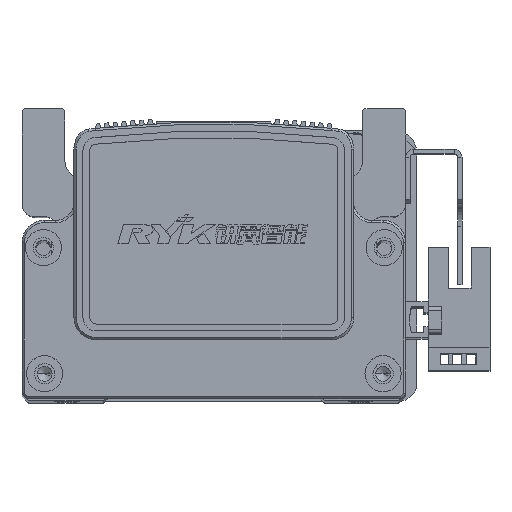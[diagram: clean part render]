
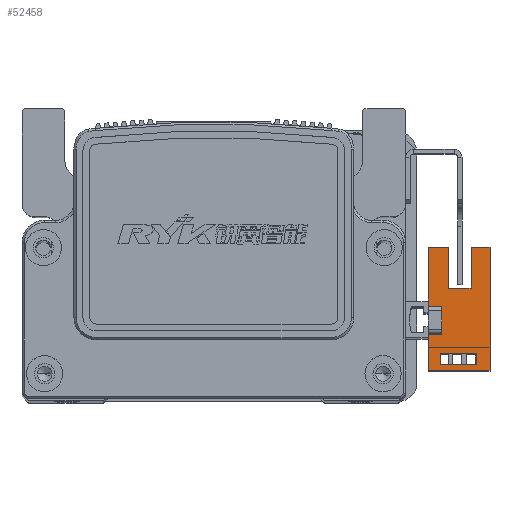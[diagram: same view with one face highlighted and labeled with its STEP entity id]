
A CAD part, top view. The second image highlights one B-rep face of the part: STEP entity #52458.
In plain terms, the highlighted planar face has unit normal (0, 0, 1) as drawn and (1, 0, 0) by its records, which use the part's own axes.
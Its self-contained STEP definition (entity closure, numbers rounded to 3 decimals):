
#1067 = AXIS2_PLACEMENT_3D ( 'NONE', #25248, #25169, #25210 ) ;
#5616 = EDGE_CURVE ( 'NONE', #18789, #18699, #26593, .T. ) ;
#5624 = EDGE_CURVE ( 'NONE', #18732, #18730, #41640, .T. ) ;
#5653 = EDGE_CURVE ( 'NONE', #18780, #18739, #41610, .T. ) ;
#5678 = EDGE_CURVE ( 'NONE', #18806, #18833, #41665, .T. ) ;
#5682 = EDGE_CURVE ( 'NONE', #18872, #18853, #41678, .T. ) ;
#5689 = EDGE_CURVE ( 'NONE', #18871, #18792, #41697, .T. ) ;
#5692 = EDGE_CURVE ( 'NONE', #18813, #18780, #41700, .T. ) ;
#5693 = EDGE_CURVE ( 'NONE', #18853, #18699, #41681, .T. ) ;
#5697 = EDGE_CURVE ( 'NONE', #18782, #18872, #41770, .T. ) ;
#5701 = EDGE_CURVE ( 'NONE', #18739, #18782, #41733, .T. ) ;
#5706 = EDGE_CURVE ( 'NONE', #18813, #18732, #41791, .T. ) ;
#5712 = EDGE_CURVE ( 'NONE', #18831, #18783, #41768, .T. ) ;
#5713 = EDGE_CURVE ( 'NONE', #18792, #18789, #41785, .T. ) ;
#5736 = EDGE_CURVE ( 'NONE', #18730, #18871, #41807, .T. ) ;
#5778 = EDGE_CURVE ( 'NONE', #18833, #18831, #41899, .T. ) ;
#5782 = EDGE_CURVE ( 'NONE', #18783, #18806, #41861, .T. ) ;
#14889 = ORIENTED_EDGE ( 'NONE', *, *, #5653, .T. ) ;
#14897 = ORIENTED_EDGE ( 'NONE', *, *, #5682, .T. ) ;
#14898 = ORIENTED_EDGE ( 'NONE', *, *, #5689, .F. ) ;
#14908 = ORIENTED_EDGE ( 'NONE', *, *, #5692, .T. ) ;
#14921 = ORIENTED_EDGE ( 'NONE', *, *, #5678, .F. ) ;
#14922 = ORIENTED_EDGE ( 'NONE', *, *, #5616, .F. ) ;
#14928 = ORIENTED_EDGE ( 'NONE', *, *, #5736, .F. ) ;
#14935 = ORIENTED_EDGE ( 'NONE', *, *, #5778, .F. ) ;
#14936 = ORIENTED_EDGE ( 'NONE', *, *, #5693, .T. ) ;
#14939 = ORIENTED_EDGE ( 'NONE', *, *, #5624, .F. ) ;
#14940 = ORIENTED_EDGE ( 'NONE', *, *, #5713, .F. ) ;
#14942 = ORIENTED_EDGE ( 'NONE', *, *, #5697, .T. ) ;
#14947 = ORIENTED_EDGE ( 'NONE', *, *, #5701, .T. ) ;
#14953 = ORIENTED_EDGE ( 'NONE', *, *, #5712, .F. ) ;
#14987 = ORIENTED_EDGE ( 'NONE', *, *, #5782, .F. ) ;
#15007 = ORIENTED_EDGE ( 'NONE', *, *, #5706, .F. ) ;
#15786 = EDGE_LOOP ( 'NONE', ( #14953, #14935, #14921, #14987 ) ) ;
#15823 = EDGE_LOOP ( 'NONE', ( #14947, #14942, #14897, #14936, #14922, #14940, #14898, #14928, #14939, #15007, #14908, #14889 ) ) ;
#18699 = VERTEX_POINT ( 'NONE', #35324 ) ;
#18730 = VERTEX_POINT ( 'NONE', #35390 ) ;
#18732 = VERTEX_POINT ( 'NONE', #35441 ) ;
#18739 = VERTEX_POINT ( 'NONE', #35405 ) ;
#18780 = VERTEX_POINT ( 'NONE', #35409 ) ;
#18782 = VERTEX_POINT ( 'NONE', #35407 ) ;
#18783 = VERTEX_POINT ( 'NONE', #35408 ) ;
#18789 = VERTEX_POINT ( 'NONE', #35412 ) ;
#18792 = VERTEX_POINT ( 'NONE', #35480 ) ;
#18806 = VERTEX_POINT ( 'NONE', #35493 ) ;
#18813 = VERTEX_POINT ( 'NONE', #35489 ) ;
#18831 = VERTEX_POINT ( 'NONE', #35483 ) ;
#18833 = VERTEX_POINT ( 'NONE', #35464 ) ;
#18853 = VERTEX_POINT ( 'NONE', #35468 ) ;
#18871 = VERTEX_POINT ( 'NONE', #35550 ) ;
#18872 = VERTEX_POINT ( 'NONE', #35530 ) ;
#25169 = DIRECTION ( 'NONE',  ( 1., 0., 0. ) ) ;
#25210 = DIRECTION ( 'NONE',  ( 0., 1., 0. ) ) ;
#25245 = PLANE ( 'NONE',  #1067 ) ;
#25248 = CARTESIAN_POINT ( 'NONE',  ( 3.2, 16.1, -10.7 ) ) ;
#26593 = LINE ( 'NONE', #40779, #26855 ) ;
#26855 = VECTOR ( 'NONE', #40784, 1000. ) ;
#27877 = FACE_BOUND ( 'NONE', #15786, .T. ) ;
#27918 = FACE_OUTER_BOUND ( 'NONE', #15823, .T. ) ;
#35324 = CARTESIAN_POINT ( 'NONE',  ( 3.2, 16.1, 3. ) ) ;
#35390 = CARTESIAN_POINT ( 'NONE',  ( 3.2, -3.1, 3. ) ) ;
#35405 = CARTESIAN_POINT ( 'NONE',  ( 3.2, 16.1, -6.5 ) ) ;
#35407 = CARTESIAN_POINT ( 'NONE',  ( 3.2, 7.1, -6.5 ) ) ;
#35408 = CARTESIAN_POINT ( 'NONE',  ( 3.2, -9.83, 0.3 ) ) ;
#35409 = CARTESIAN_POINT ( 'NONE',  ( 3.2, 16.1, -10.7 ) ) ;
#35412 = CARTESIAN_POINT ( 'NONE',  ( 3.2, 3.1, 3. ) ) ;
#35441 = CARTESIAN_POINT ( 'NONE',  ( 3.2, -11.1, 3. ) ) ;
#35464 = CARTESIAN_POINT ( 'NONE',  ( 3.2, -7.33, -7.7 ) ) ;
#35468 = CARTESIAN_POINT ( 'NONE',  ( 3.2, 16.1, -1.5 ) ) ;
#35480 = CARTESIAN_POINT ( 'NONE',  ( 3.2, 3.1, 0. ) ) ;
#35483 = CARTESIAN_POINT ( 'NONE',  ( 3.2, -7.33, 0.3 ) ) ;
#35489 = CARTESIAN_POINT ( 'NONE',  ( 3.2, -11.1, -10.7 ) ) ;
#35493 = CARTESIAN_POINT ( 'NONE',  ( 3.2, -9.83, -7.7 ) ) ;
#35530 = CARTESIAN_POINT ( 'NONE',  ( 3.2, 7.1, -1.5 ) ) ;
#35550 = CARTESIAN_POINT ( 'NONE',  ( 3.2, -3.1, 0. ) ) ;
#40779 = CARTESIAN_POINT ( 'NONE',  ( 3.2, 16.1, 3. ) ) ;
#40784 = DIRECTION ( 'NONE',  ( 0., 1., 0. ) ) ;
#40829 = DIRECTION ( 'NONE',  ( 0., 1., 0. ) ) ;
#40833 = CARTESIAN_POINT ( 'NONE',  ( 3.2, 16.1, 3. ) ) ;
#40858 = DIRECTION ( 'NONE',  ( 0., 0., 1. ) ) ;
#40878 = CARTESIAN_POINT ( 'NONE',  ( 3.2, 16.1, -10.7 ) ) ;
#40931 = CARTESIAN_POINT ( 'NONE',  ( 3.2, 0., 0. ) ) ;
#40951 = DIRECTION ( 'NONE',  ( 0., 1., 0. ) ) ;
#40952 = CARTESIAN_POINT ( 'NONE',  ( 3.2, 16.1, -10.7 ) ) ;
#40957 = CARTESIAN_POINT ( 'NONE',  ( 3.2, 25.1, -1.5 ) ) ;
#40962 = CARTESIAN_POINT ( 'NONE',  ( 3.2, 16.1, -10.7 ) ) ;
#40965 = CARTESIAN_POINT ( 'NONE',  ( 3.2, 16.1, -7.7 ) ) ;
#40967 = DIRECTION ( 'NONE',  ( 0., 1., 0. ) ) ;
#40969 = DIRECTION ( 'NONE',  ( 0., 0., 1. ) ) ;
#40970 = DIRECTION ( 'NONE',  ( 0., 1., 0. ) ) ;
#40973 = DIRECTION ( 'NONE',  ( 0., 1., 0. ) ) ;
#40976 = CARTESIAN_POINT ( 'NONE',  ( 3.2, 16.1, 0.3 ) ) ;
#40985 = DIRECTION ( 'NONE',  ( 0., 0., 1. ) ) ;
#40986 = DIRECTION ( 'NONE',  ( 0., -1., 0. ) ) ;
#40987 = DIRECTION ( 'NONE',  ( 0., -1., 0. ) ) ;
#40991 = CARTESIAN_POINT ( 'NONE',  ( 3.2, 25.1, -6.5 ) ) ;
#40995 = CARTESIAN_POINT ( 'NONE',  ( 3.2, 7.1, -6.5 ) ) ;
#40996 = CARTESIAN_POINT ( 'NONE',  ( 3.2, 3.1, 3. ) ) ;
#41008 = CARTESIAN_POINT ( 'NONE',  ( 3.2, -11.1, 3. ) ) ;
#41011 = DIRECTION ( 'NONE',  ( 0., 0., 1. ) ) ;
#41012 = DIRECTION ( 'NONE',  ( 0., 0., 1. ) ) ;
#41065 = DIRECTION ( 'NONE',  ( 0., 0., -1. ) ) ;
#41088 = CARTESIAN_POINT ( 'NONE',  ( 3.2, -3.1, 3. ) ) ;
#41148 = DIRECTION ( 'NONE',  ( 0., 0., -1. ) ) ;
#41160 = CARTESIAN_POINT ( 'NONE',  ( 3.2, -9.83, -10.7 ) ) ;
#41173 = CARTESIAN_POINT ( 'NONE',  ( 3.2, -7.33, -10.7 ) ) ;
#41175 = DIRECTION ( 'NONE',  ( 0., 0., 1. ) ) ;
#41605 = VECTOR ( 'NONE', #40858, 1000. ) ;
#41610 = LINE ( 'NONE', #40878, #41605 ) ;
#41640 = LINE ( 'NONE', #40833, #41660 ) ;
#41660 = VECTOR ( 'NONE', #40829, 1000. ) ;
#41665 = LINE ( 'NONE', #40965, #41716 ) ;
#41678 = LINE ( 'NONE', #40957, #41723 ) ;
#41681 = LINE ( 'NONE', #40952, #41710 ) ;
#41697 = LINE ( 'NONE', #40931, #41712 ) ;
#41700 = LINE ( 'NONE', #40962, #41709 ) ;
#41709 = VECTOR ( 'NONE', #40970, 1000. ) ;
#41710 = VECTOR ( 'NONE', #40969, 1000. ) ;
#41712 = VECTOR ( 'NONE', #40967, 1000. ) ;
#41716 = VECTOR ( 'NONE', #40973, 1000. ) ;
#41723 = VECTOR ( 'NONE', #40951, 1000. ) ;
#41733 = LINE ( 'NONE', #40991, #41734 ) ;
#41734 = VECTOR ( 'NONE', #40987, 1000. ) ;
#41745 = VECTOR ( 'NONE', #41011, 1000. ) ;
#41758 = VECTOR ( 'NONE', #40986, 1000. ) ;
#41763 = VECTOR ( 'NONE', #41012, 1000. ) ;
#41765 = VECTOR ( 'NONE', #40985, 1000. ) ;
#41768 = LINE ( 'NONE', #40976, #41758 ) ;
#41770 = LINE ( 'NONE', #40995, #41763 ) ;
#41785 = LINE ( 'NONE', #40996, #41745 ) ;
#41791 = LINE ( 'NONE', #41008, #41765 ) ;
#41807 = LINE ( 'NONE', #41088, #41815 ) ;
#41815 = VECTOR ( 'NONE', #41065, 1000. ) ;
#41861 = LINE ( 'NONE', #41160, #41872 ) ;
#41872 = VECTOR ( 'NONE', #41148, 1000. ) ;
#41899 = LINE ( 'NONE', #41173, #41901 ) ;
#41901 = VECTOR ( 'NONE', #41175, 1000. ) ;
#52458 = ADVANCED_FACE ( 'NONE', ( #27918, #27877 ), #25245, .T. ) ;
